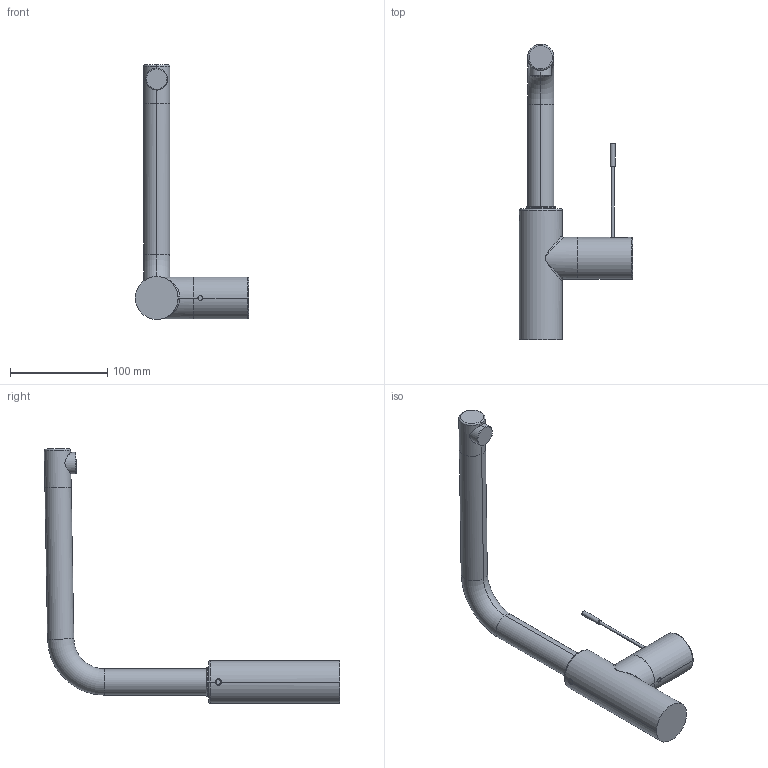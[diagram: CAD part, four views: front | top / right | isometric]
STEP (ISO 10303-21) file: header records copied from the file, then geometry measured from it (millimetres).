
FILE_DESCRIPTION((''),'2;1');
FILE_NAME('10_151_013_XXX','2012-01-04T',('hpf'),(''),'PRO/ENGINEER BY PARAMETRIC TECHNOLOGY CORPORATION, 2011080','PRO/ENGINEER BY PARAMETRIC TECHNOLOGY CORPORATION, 2011080','');
FILE_SCHEMA(('AUTOMOTIVE_DESIGN_CC2 { 1 2 10303 214 -1 1 5 2 }'));
Length unit declared in the file: millimetre
Products named in the file (1): 10_151_013_XXX
Bounding box: 116.65 x 304.08 x 262.2 mm (x, y, z)
Volume: 532023.2 mm3; surface area: 67210.2 mm2
Topology: 1 solids, 2 shells, 78 faces, 163 edges, 96 vertices
Faces by surface type: cylinder 36, plane 16, torus 16, cone 8, bspline 2
Entity records: 4141 total; most frequent: CARTESIAN_POINT 1675, DIRECTION 385, ORIENTED_EDGE 326, AXIS2_PLACEMENT_3D 166, EDGE_CURVE 163, FILL_AREA_STYLE_COLOUR 112, FILL_AREA_STYLE 112, SURFACE_STYLE_FILL_AREA 112
